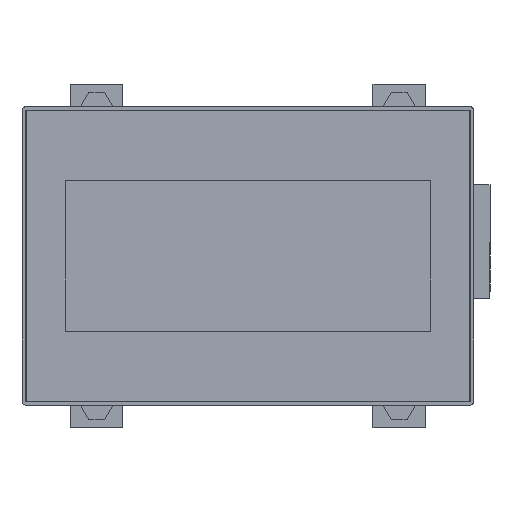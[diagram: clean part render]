
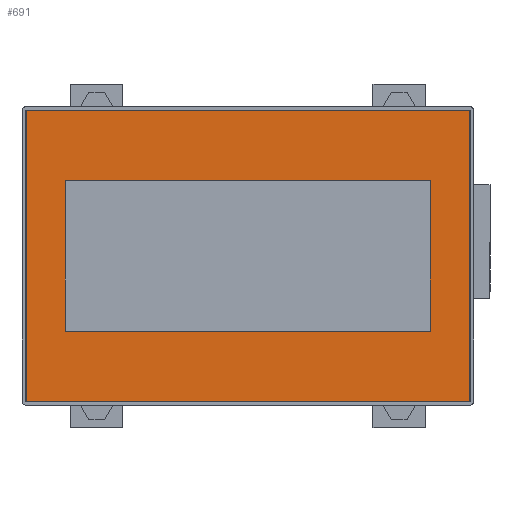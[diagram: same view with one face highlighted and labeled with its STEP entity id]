
A CAD part, top view. The second image highlights one B-rep face of the part: STEP entity #691.
In plain terms, the highlighted planar face has unit normal (0, 0, 1).
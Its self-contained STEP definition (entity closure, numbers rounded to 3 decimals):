
#58 = VERTEX_POINT ( 'NONE', #10567 ) ;
#99 = ORIENTED_EDGE ( 'NONE', *, *, #6861, .F. ) ;
#353 = VECTOR ( 'NONE', #16028, 1000. ) ;
#385 = CARTESIAN_POINT ( 'NONE',  ( -55., -36., 4. ) ) ;
#691 = ADVANCED_FACE ( 'NONE', ( #4050, #7471 ), #14849, .T. ) ;
#943 = EDGE_CURVE ( 'NONE', #8363, #58, #7910, .T. ) ;
#2001 = DIRECTION ( 'NONE',  ( 0., 1., 0. ) ) ;
#3159 = CARTESIAN_POINT ( 'NONE',  ( 55., -36., 4. ) ) ;
#3275 = ORIENTED_EDGE ( 'NONE', *, *, #943, .F. ) ;
#3417 = VECTOR ( 'NONE', #4338, 1000. ) ;
#3771 = CARTESIAN_POINT ( 'NONE',  ( 55., 36., 4. ) ) ;
#3969 = ORIENTED_EDGE ( 'NONE', *, *, #15584, .T. ) ;
#4050 = FACE_BOUND ( 'NONE', #4789, .T. ) ;
#4338 = DIRECTION ( 'NONE',  ( 0., 1., 0. ) ) ;
#4646 = VERTEX_POINT ( 'NONE', #3159 ) ;
#4676 = DIRECTION ( 'NONE',  ( -1., 0., 0. ) ) ;
#4789 = EDGE_LOOP ( 'NONE', ( #6789, #14333, #3275, #99 ) ) ;
#5206 = EDGE_CURVE ( 'NONE', #6543, #10506, #10818, .T. ) ;
#5391 = EDGE_CURVE ( 'NONE', #16357, #13707, #11138, .T. ) ;
#5426 = VECTOR ( 'NONE', #5666, 1000. ) ;
#5570 = LINE ( 'NONE', #3771, #14511 ) ;
#5605 = CARTESIAN_POINT ( 'NONE',  ( -55., 36., 4. ) ) ;
#5666 = DIRECTION ( 'NONE',  ( -1., 0., 0. ) ) ;
#5733 = LINE ( 'NONE', #385, #353 ) ;
#6085 = ORIENTED_EDGE ( 'NONE', *, *, #14008, .T. ) ;
#6108 = CARTESIAN_POINT ( 'NONE',  ( 45.25, 18.7, 4. ) ) ;
#6307 = VECTOR ( 'NONE', #13974, 1000. ) ;
#6437 = ORIENTED_EDGE ( 'NONE', *, *, #8974, .T. ) ;
#6441 = CARTESIAN_POINT ( 'NONE',  ( -45.25, 18.7, 4. ) ) ;
#6543 = VERTEX_POINT ( 'NONE', #5605 ) ;
#6789 = ORIENTED_EDGE ( 'NONE', *, *, #5391, .F. ) ;
#6861 = EDGE_CURVE ( 'NONE', #13707, #8363, #11994, .T. ) ;
#7452 = CARTESIAN_POINT ( 'NONE',  ( -55., 36., 4. ) ) ;
#7471 = FACE_OUTER_BOUND ( 'NONE', #9037, .T. ) ;
#7541 = DIRECTION ( 'NONE',  ( 0., -1., 0. ) ) ;
#7910 = LINE ( 'NONE', #6108, #3417 ) ;
#8261 = LINE ( 'NONE', #6441, #11843 ) ;
#8363 = VERTEX_POINT ( 'NONE', #13915 ) ;
#8426 = DIRECTION ( 'NONE',  ( 1., 0., 0. ) ) ;
#8432 = CARTESIAN_POINT ( 'NONE',  ( -45.25, 18.7, 4. ) ) ;
#8974 = EDGE_CURVE ( 'NONE', #4646, #13699, #5570, .T. ) ;
#9037 = EDGE_LOOP ( 'NONE', ( #3969, #16388, #6085, #6437 ) ) ;
#9229 = LINE ( 'NONE', #7452, #5426 ) ;
#9322 = CARTESIAN_POINT ( 'NONE',  ( -45.25, 18.7, 4. ) ) ;
#9494 = DIRECTION ( 'NONE',  ( 1., 0., 0. ) ) ;
#9930 = CARTESIAN_POINT ( 'NONE',  ( -55., -36., 4. ) ) ;
#10131 = EDGE_CURVE ( 'NONE', #58, #16357, #8261, .T. ) ;
#10208 = CARTESIAN_POINT ( 'NONE',  ( -45.25, -18.7, 4. ) ) ;
#10366 = CARTESIAN_POINT ( 'NONE',  ( 55., 36., 4. ) ) ;
#10506 = VERTEX_POINT ( 'NONE', #9930 ) ;
#10567 = CARTESIAN_POINT ( 'NONE',  ( 45.25, 18.7, 4. ) ) ;
#10818 = LINE ( 'NONE', #15747, #6307 ) ;
#11138 = LINE ( 'NONE', #9322, #15896 ) ;
#11287 = DIRECTION ( 'NONE',  ( 0., 0., 1. ) ) ;
#11843 = VECTOR ( 'NONE', #4676, 1000. ) ;
#11994 = LINE ( 'NONE', #10208, #15832 ) ;
#12128 = AXIS2_PLACEMENT_3D ( 'NONE', #13063, #11287, #9494 ) ;
#13063 = CARTESIAN_POINT ( 'NONE',  ( -56., -37., 4. ) ) ;
#13699 = VERTEX_POINT ( 'NONE', #10366 ) ;
#13707 = VERTEX_POINT ( 'NONE', #15312 ) ;
#13915 = CARTESIAN_POINT ( 'NONE',  ( 45.25, -18.7, 4. ) ) ;
#13974 = DIRECTION ( 'NONE',  ( 0., -1., 0. ) ) ;
#14008 = EDGE_CURVE ( 'NONE', #10506, #4646, #5733, .T. ) ;
#14333 = ORIENTED_EDGE ( 'NONE', *, *, #10131, .F. ) ;
#14511 = VECTOR ( 'NONE', #2001, 1000. ) ;
#14849 = PLANE ( 'NONE',  #12128 ) ;
#15312 = CARTESIAN_POINT ( 'NONE',  ( -45.25, -18.7, 4. ) ) ;
#15584 = EDGE_CURVE ( 'NONE', #13699, #6543, #9229, .T. ) ;
#15747 = CARTESIAN_POINT ( 'NONE',  ( -55., 36., 4. ) ) ;
#15832 = VECTOR ( 'NONE', #8426, 1000. ) ;
#15896 = VECTOR ( 'NONE', #7541, 1000. ) ;
#16028 = DIRECTION ( 'NONE',  ( 1., 0., 0. ) ) ;
#16357 = VERTEX_POINT ( 'NONE', #8432 ) ;
#16388 = ORIENTED_EDGE ( 'NONE', *, *, #5206, .T. ) ;
